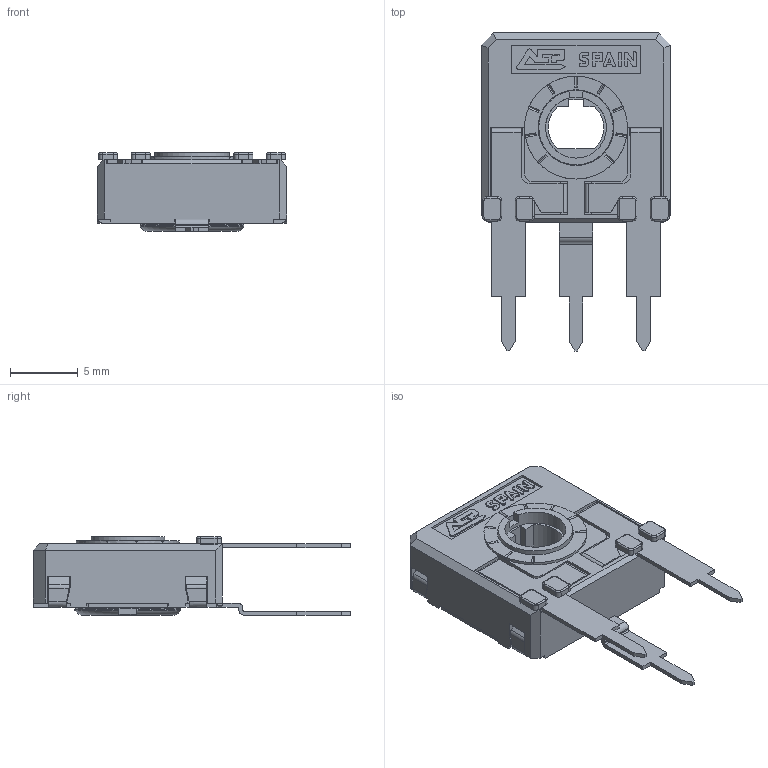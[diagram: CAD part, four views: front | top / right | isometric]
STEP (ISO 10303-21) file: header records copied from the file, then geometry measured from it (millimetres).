
FILE_DESCRIPTION(/* description */ (''),/* implementation_level */ '2;1');
FILE_NAME(/* name */ '\\SERVERACP\intercambio\Ignacio Santa Cecilia\Nueva WEB 2025\CA14 - CE14\CA14THA5.stp',/* time_stamp */ '2025-06-13T11:26:20+02:00',/* author */ ('CEM'),/* organization */ (''),/* preprocessor_version */ 'ST-DEVELOPER v17',/* originating_system */ 'Autodesk Inventor 2018',/* authorisation */ '');
FILE_SCHEMA (('AUTOMOTIVE_DESIGN { 1 0 10303 214 3 1 1 }'));
Length unit declared in the file: millimetre
Products named in the file (1): CARCASA CA14 PGA
Bounding box: 14 x 23.5 x 5.8 mm (x, y, z)
Volume: 534.3 mm3; surface area: 1498.5 mm2
Topology: 1 solids, 1 shells, 670 faces, 1893 edges, 1219 vertices
Faces by surface type: plane 498, cylinder 135, torus 23, bspline 8, cone 6
Full cylindrical faces by diameter (mm): 4.5 x1, 5.5 x1, 5.6 x1, 5.752 x1, 6.8 x1, 7.6 x1
Entity records: 21883 total; most frequent: CARTESIAN_POINT 4080, ORIENTED_EDGE 3786, DIRECTION 3529, EDGE_CURVE 1893, LINE 1493, VECTOR 1493, VERTEX_POINT 1219, AXIS2_PLACEMENT_3D 1018
